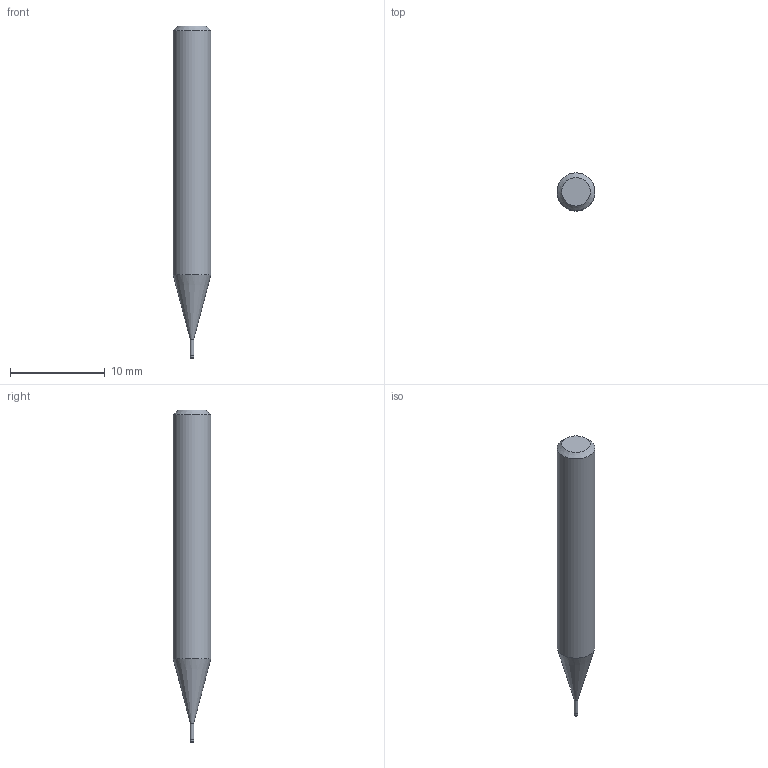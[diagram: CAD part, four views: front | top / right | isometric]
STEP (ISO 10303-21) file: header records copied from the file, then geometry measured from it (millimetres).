
FILE_DESCRIPTION((''),'2;1');
FILE_NAME('C:\Users\nsx150\AppData\Local\Temp\Mastercam 2021\80JYEHYUML\TEMP.step','2022-03-29T14:35:07',(''),(''),'STEP Write','Mastercam 2021 ... CNC Software, Inc.','');
FILE_SCHEMA(('AUTOMOTIVE_DESIGN'));
Length unit declared in the file: millimetre
Products named in the file (1): None
Bounding box: 4 x 4 x 35 mm (x, y, z)
Volume: 359.6 mm3; surface area: 389 mm2
Topology: 2 solids, 2 shells, 10 faces, 14 edges, 8 vertices
Faces by surface type: plane 4, cylinder 3, cone 2, torus 1
Full cylindrical faces by diameter (mm): 0.37 x1, 0.4 x1, 4 x1
Entity records: 232 total; most frequent: DIRECTION 40, CARTESIAN_POINT 28, AXIS2_PLACEMENT_3D 20, ORIENTED_EDGE 16, EDGE_LOOP 16, STYLED_ITEM 13, ADVANCED_FACE 10, FACE_BOUND 10
